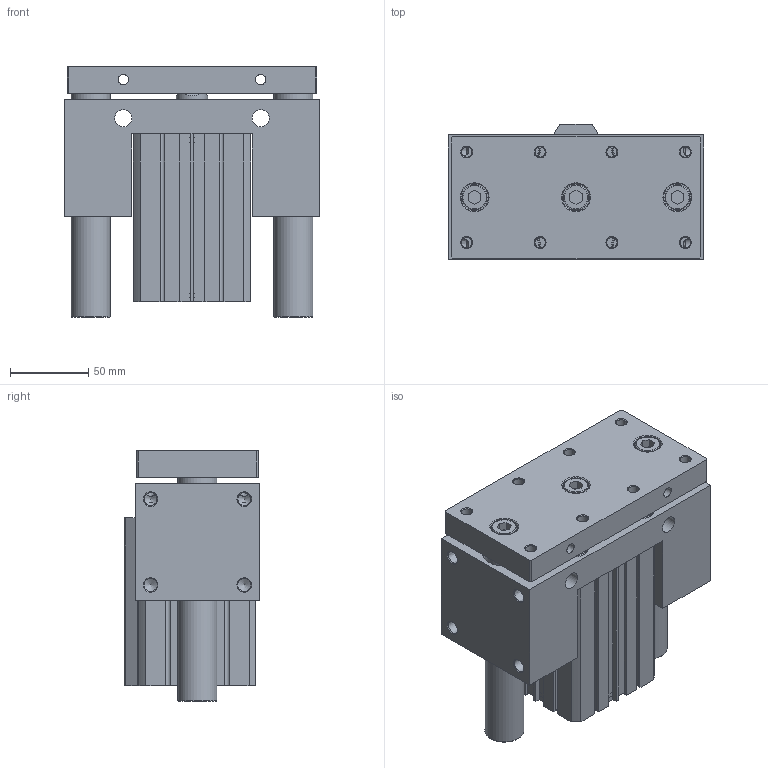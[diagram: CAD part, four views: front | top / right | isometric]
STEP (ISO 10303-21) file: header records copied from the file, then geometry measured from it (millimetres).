
FILE_DESCRIPTION((''),'2;1');
FILE_NAME('I:\3D電子目錄\氣缸\JCB\JCB\JCB63-S\JCB63x65-S.stp','2007-09-01T15:31:34',('Administrator'),(''),'Autodesk Inventor 11','Autodesk Inventor 11','');
FILE_SCHEMA(('AUTOMOTIVE_DESIGN { 1 0 10303 214 1 1 1 1 }'));
Length unit declared in the file: millimetre
Products named in the file (1): JCB63
Bounding box: 164 x 87 x 160.5 mm (x, y, z)
Volume: 1443570.7 mm3; surface area: 219230.9 mm2
Topology: 3 solids, 5 shells, 343 faces, 829 edges, 538 vertices
Faces by surface type: plane 186, cylinder 62, cone 47, bspline 40, torus 8
Full cylindrical faces by diameter (mm): 3 x2, 6.8 x4, 8.376 x4, 11 x8, 13 x4, 14 x4, 16 x3, 17.5 x3, 20 x1, 21 x1, 25 x2, 28 x2, 40 x1, 47 x1, 65 x4, 68 x2
Entity records: 10008 total; most frequent: CARTESIAN_POINT 2670, DIRECTION 1474, ORIENTED_EDGE 1320, EDGE_CURVE 660, EDGE_LOOP 554, AXIS2_PLACEMENT_3D 532, VERTEX_POINT 498, VECTOR 410
